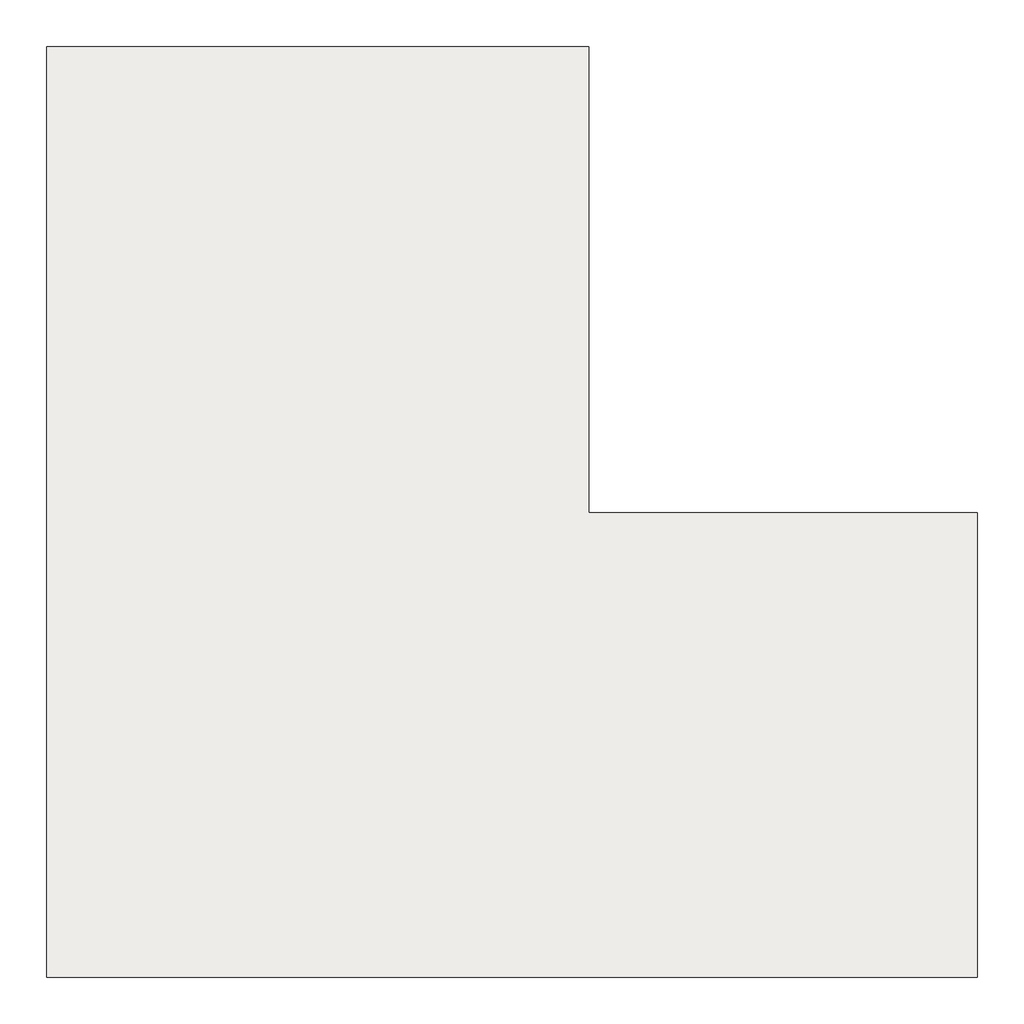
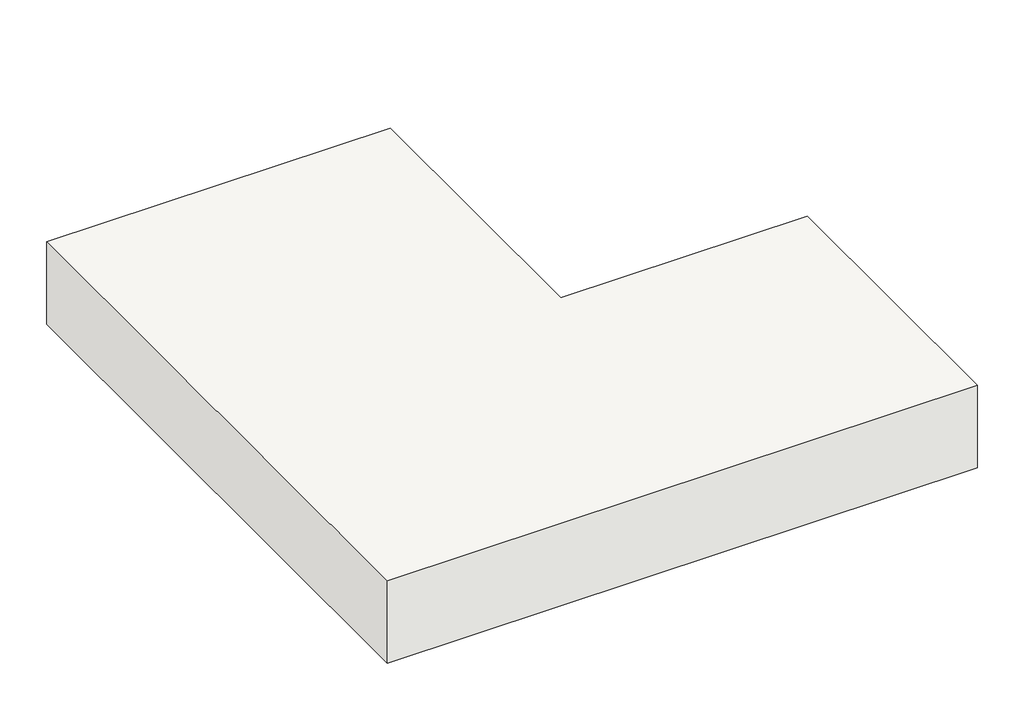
# One storey: 1 slab.
"""IFC4 building model written with IfcOpenShell, lengths in millimetres."""

from ifc_helpers import new_model, si_unit, frame, origin, place, context, project, spatial, polyline, outline, extrude, element, save

model = new_model("IFC4")

# Units and contexts
model_context = context("Model", 3, world=origin())
ifc_project = project(units=[si_unit("LENGTHUNIT", "METRE", prefix="MILLI")], contexts=[model_context])

# Site, building, storey
site = spatial("IfcSite", under=ifc_project)
building = spatial("IfcBuilding", under=site)
storey = spatial("IfcBuildingStorey", under=building, Name="- 3 - Sotto magrone", Elevation=-3100.0)

# Slab
placement = place(None, origin())
element("IfcSlab", 1, ObjectType="Terreno", at=placement, inside=storey, context=model_context, shape_type="SweptSolid", body=[
    extrude(outline(polyline([(1762.3707384, -15645.7761472), (-17857.5089367, -15645.7761472), (-17857.5089367, 3978.003934), (-6426.5891533, 3978.003934), (-6426.5891533, -5845.9559577), (1762.3707384, -5845.9559577), (1762.3707384, -15645.7761472)])), frame((0.0, 0.0, -6000.0), z_axis=(0.0, 0.0, 1.0), x_axis=(1.0, 0.0, 0.0)), (0.0, 0.0, 1.0), 2900.0),
])

save(model, "model.ifc")
